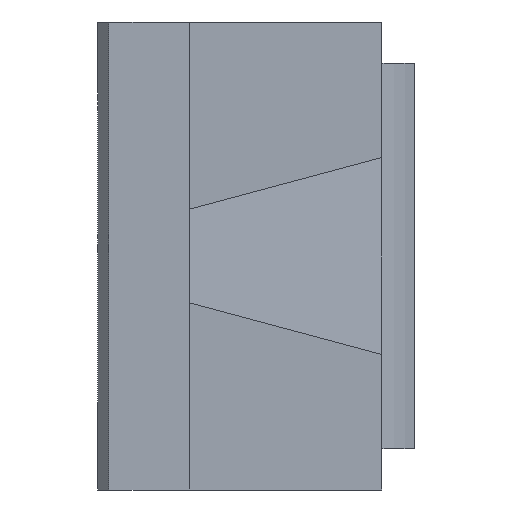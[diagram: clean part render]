
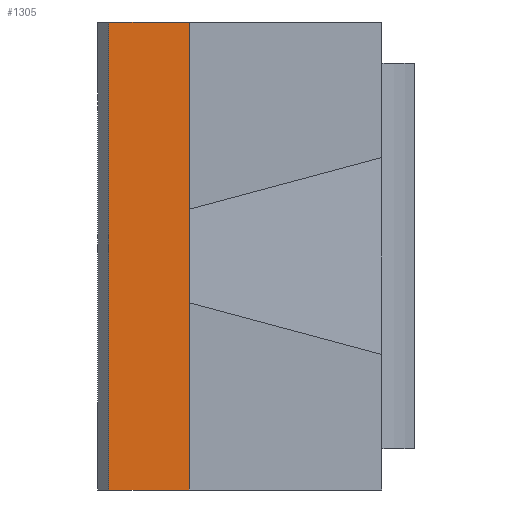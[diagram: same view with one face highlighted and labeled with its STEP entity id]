
A CAD part, left-side view. The second image highlights one B-rep face of the part: STEP entity #1305.
In plain terms, the highlighted planar face has unit normal (-1, 0, 0).
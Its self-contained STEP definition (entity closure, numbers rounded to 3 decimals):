
#429=CARTESIAN_POINT('',(-34.0,10.99,26.1));
#430=VERTEX_POINT('',#429);
#475=CARTESIAN_POINT('',(-34.0,10.99,46.5));
#476=VERTEX_POINT('',#475);
#483=CARTESIAN_POINT('',(-34.0,10.99,26.1));
#484=DIRECTION('',(0.0,0.0,1.0));
#485=VECTOR('',#484,20.4);
#486=LINE('',#483,#485);
#487=EDGE_CURVE('',#430,#476,#486,.T.);
#532=CARTESIAN_POINT('',(-34.0,10.99,15.9));
#533=VERTEX_POINT('',#532);
#581=CARTESIAN_POINT('',(-34.0,10.99,-4.5));
#582=VERTEX_POINT('',#581);
#583=CARTESIAN_POINT('',(-34.0,10.99,-4.5));
#584=DIRECTION('',(0.0,0.0,1.0));
#585=VECTOR('',#584,20.4);
#586=LINE('',#583,#585);
#587=EDGE_CURVE('',#582,#533,#586,.T.);
#767=CARTESIAN_POINT('',(-34.0,19.75,46.5));
#768=VERTEX_POINT('',#767);
#775=CARTESIAN_POINT('',(-34.0,10.99,46.5));
#776=DIRECTION('',(0.0,1.0,0.0));
#777=VECTOR('',#776,8.76);
#778=LINE('',#775,#777);
#779=EDGE_CURVE('',#476,#768,#778,.T.);
#984=CARTESIAN_POINT('',(-34.0,19.75,-4.5));
#985=VERTEX_POINT('',#984);
#986=CARTESIAN_POINT('',(-34.0,19.75,-4.5));
#987=DIRECTION('',(0.0,-1.0,0.0));
#988=VECTOR('',#987,8.76);
#989=LINE('',#986,#988);
#990=EDGE_CURVE('',#985,#582,#989,.T.);
#1271=CARTESIAN_POINT('',(-34.0,19.75,-4.5));
#1272=DIRECTION('',(0.0,0.0,1.0));
#1273=VECTOR('',#1272,51.0);
#1274=LINE('',#1271,#1273);
#1275=EDGE_CURVE('',#985,#768,#1274,.T.);
#1287=CARTESIAN_POINT('',(-34.0,10.99,21.0));
#1288=DIRECTION('',(-1.0,0.0,0.0));
#1289=DIRECTION('',(0.0,0.0,1.0));
#1290=AXIS2_PLACEMENT_3D('',#1287,#1288,#1289);
#1291=PLANE('',#1290);
#1292=ORIENTED_EDGE('',*,*,#1275,.F.);
#1293=ORIENTED_EDGE('',*,*,#990,.T.);
#1294=ORIENTED_EDGE('',*,*,#587,.T.);
#1295=CARTESIAN_POINT('',(-34.0,10.99,15.9));
#1296=DIRECTION('',(0.0,0.0,1.0));
#1297=VECTOR('',#1296,10.2);
#1298=LINE('',#1295,#1297);
#1299=EDGE_CURVE('',#533,#430,#1298,.T.);
#1300=ORIENTED_EDGE('',*,*,#1299,.T.);
#1301=ORIENTED_EDGE('',*,*,#487,.T.);
#1302=ORIENTED_EDGE('',*,*,#779,.T.);
#1303=EDGE_LOOP('',(#1292,#1293,#1294,#1300,#1301,#1302));
#1304=FACE_OUTER_BOUND('',#1303,.T.);
#1305=ADVANCED_FACE('',(#1304),#1291,.T.);
